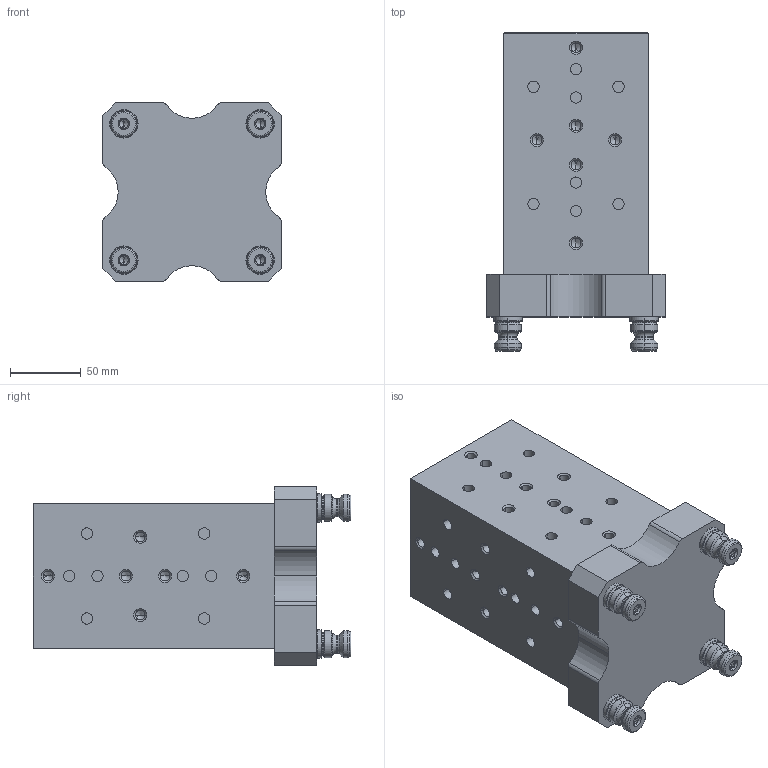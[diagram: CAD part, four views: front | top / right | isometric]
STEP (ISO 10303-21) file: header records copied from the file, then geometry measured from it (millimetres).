
FILE_DESCRIPTION (( 'STEP AP214' ), '1' );
FILE_NAME ('R96-V75XT4.STEP', '2019-07-09T18:55:11', ( '' ), ( '' ), 'SwSTEP 2.0', 'SolidWorks 2018', '' );
FILE_SCHEMA (( 'AUTOMOTIVE_DESIGN' ));
Length unit declared in the file: millimetre
Products named in the file (5): R96-V75XT4; PS20F; 39874.CPSS_91390A162; PS20F-1_HARD TURN
Assembly tree (7 placements, depth 3):
  R96-V75XT4
    R96-V75XT4
    PS20F  x4
      PS20F-1_HARD TURN
      39874.CPSS_91390A162
Bounding box: 125.73 x 224 x 125.73 mm (x, y, z)
Volume: 2174794.7 mm3; surface area: 150117.8 mm2
Topology: 9 solids, 9 shells, 892 faces, 2093 edges, 1217 vertices
Faces by surface type: cylinder 335, cone 240, plane 201, torus 104, bspline 12
Entity records: 15574 total; most frequent: CARTESIAN_POINT 5101, DIRECTION 2317, ORIENTED_EDGE 1996, EDGE_CURVE 998, AXIS2_PLACEMENT_3D 941, VERTEX_POINT 614, EDGE_LOOP 536, CIRCLE 470
